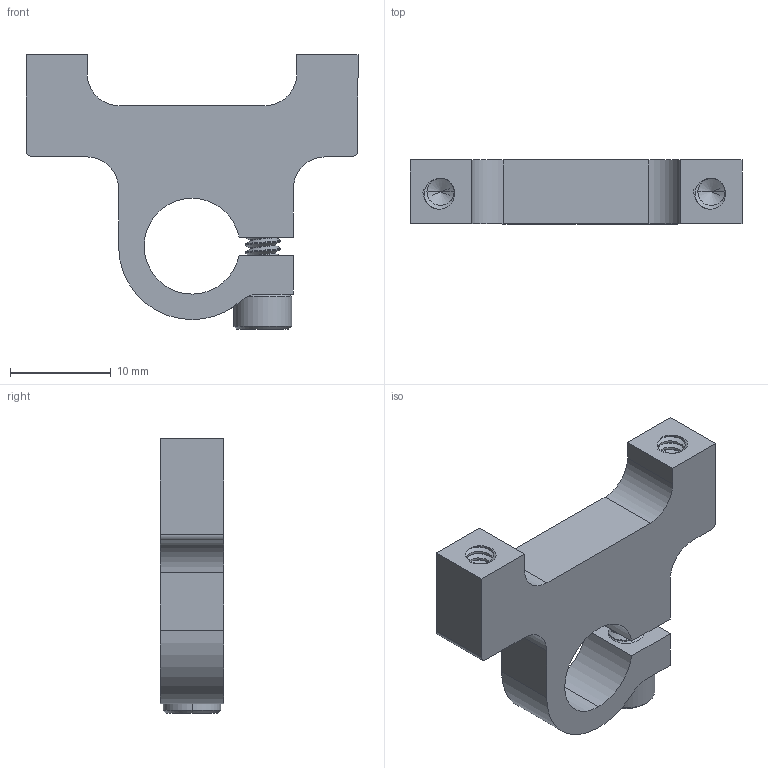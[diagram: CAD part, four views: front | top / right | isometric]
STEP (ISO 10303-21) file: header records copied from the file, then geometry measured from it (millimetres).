
FILE_DESCRIPTION (( 'STEP AP203' ), '1' );
FILE_NAME ('585544 assembly.STEP', '2016-08-23T14:55:27', ( '' ), ( '' ), 'SwSTEP 2.0', 'SolidWorks 2014', '' );
FILE_SCHEMA (( 'CONFIG_CONTROL_DESIGN' ));
Length unit declared in the file: inch
Products named in the file (3): 585544; 585544 assembly; 632110_90128A121
Assembly tree (2 placements, depth 2):
  585544 assembly
    585544
    632110_90128A121
Bounding box: 33.02 x 6.35 x 27.32 mm (x, y, z)
Volume: 2548.1 mm3; surface area: 2437.6 mm2
Topology: 2 solids, 2 shells, 232 faces, 656 edges, 427 vertices
Faces by surface type: cylinder 175, plane 27, cone 22, bspline 8
Entity records: 12807 total; most frequent: CARTESIAN_POINT 7470, ORIENTED_EDGE 1300, DIRECTION 842, EDGE_CURVE 650, VERTEX_POINT 427, AXIS2_PLACEMENT_3D 301, VECTOR 240, LINE 240
